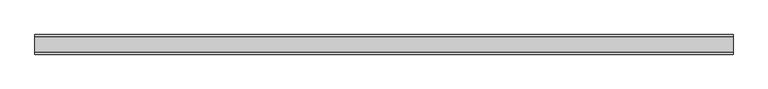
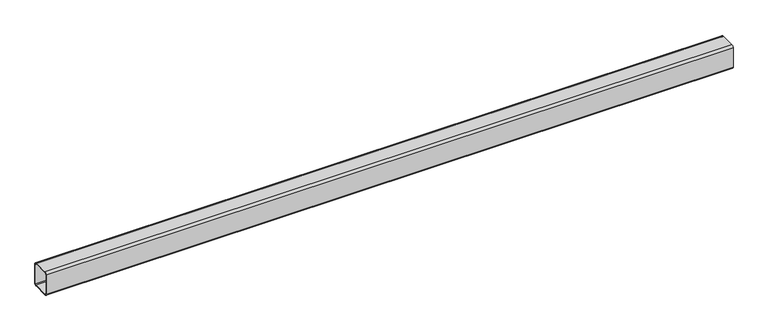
"""IFC4 building model written with IfcOpenShell, lengths in millimetres: beam geometry, Труба прямоугольного сечения (ТУ 67-2287-80) Балки : труба200x160x8."""

from ifc_helpers import new_model, si_unit, point, frame, frame_2d, origin, place, context, project, spatial, polyline, circle_curve, trimmed, segment, composite_curve, outline, extrude, source, transform, mapped, element, save


def beam_cc71b6d1(model_context):
    return source(origin(), model_context, "Body", "SweptSolid", [
        extrude(outline(composite_curve([segment(polyline([(-64.0, 100.0), (64.0, 100.0)]), True, "CONTINUOUS"), segment(trimmed(circle_curve(frame_2d((64.0, 84.0)), 16.0), [point((64.0, 100.0))], [point((80.0, 84.0))], False, "CARTESIAN"), True, "CONTINUOUS"), segment(polyline([(80.0, 84.0), (80.0, -84.0)]), True, "CONTINUOUS"), segment(trimmed(circle_curve(frame_2d((64.0, -84.0)), 16.0), [point((80.0, -84.0))], [point((64.0, -100.0))], False, "CARTESIAN"), True, "CONTINUOUS"), segment(polyline([(64.0, -100.0), (-64.0, -100.0)]), True, "CONTINUOUS"), segment(trimmed(circle_curve(frame_2d((-64.0, -84.0)), 16.0), [point((-64.0, -100.0))], [point((-80.0, -84.0))], False, "CARTESIAN"), True, "CONTINUOUS"), segment(polyline([(-80.0, -84.0), (-80.0, 84.0)]), True, "CONTINUOUS"), segment(trimmed(circle_curve(frame_2d((-64.0, 84.0)), 16.0), [point((-80.0, 84.0))], [point((-64.0, 100.0))], False, "CARTESIAN"), True, "CONTINUOUS")], self_intersect=False), holes=[composite_curve([segment(trimmed(circle_curve(frame_2d((-64.0, 84.0)), 8.0), [point((-64.0, 92.0))], [point((-72.0, 84.0))], True, "CARTESIAN"), True, "CONTINUOUS"), segment(polyline([(-72.0, 84.0), (-72.0, -84.0)]), True, "CONTINUOUS"), segment(trimmed(circle_curve(frame_2d((-64.0, -84.0)), 8.0), [point((-72.0, -84.0))], [point((-64.0, -92.0))], True, "CARTESIAN"), True, "CONTINUOUS"), segment(polyline([(-64.0, -92.0), (64.0, -92.0)]), True, "CONTINUOUS"), segment(trimmed(circle_curve(frame_2d((64.0, -84.0)), 8.0), [point((64.0, -92.0))], [point((72.0, -84.0))], True, "CARTESIAN"), True, "CONTINUOUS"), segment(polyline([(72.0, -84.0), (72.0, 84.0)]), True, "CONTINUOUS"), segment(trimmed(circle_curve(frame_2d((64.0, 84.0)), 8.0), [point((72.0, 84.0))], [point((64.0, 92.0))], True, "CARTESIAN"), True, "CONTINUOUS"), segment(polyline([(64.0, 92.0), (-64.0, 92.0)]), True, "CONTINUOUS")], self_intersect=False)]), frame((-2799.5, 0.0, 0.0), z_axis=(1.0, 0.0, 0.0), x_axis=(0.0, 1.0, 0.0)), (0.0, 0.0, 1.0), 5679.0),
    ])


if __name__ == "__main__":
    model = new_model("IFC4")
    model_context = context("Model", 3, world=origin())
    ifc_project = project(units=[si_unit("LENGTHUNIT", "METRE", prefix="MILLI")], contexts=[model_context])
    site = spatial("IfcSite", under=ifc_project)
    building = spatial("IfcBuilding", under=site)
    placement = place(None, origin())
    beam_shape = beam_cc71b6d1(model_context)
    element("IfcBeam", 1, ObjectType="Труба прямоугольного сечения (ТУ 67-2287-80) Балки : труба200x160x8", at=placement, inside=building, context=model_context, shape_type="MappedRepresentation", body=[
        mapped(beam_shape, transform((0.0, 0.0, 0.0), x_axis=(1.0, 0.0, 0.0), y_axis=(0.0, 1.0, 0.0), z_axis=(0.0, 0.0, 1.0))),
    ])
    save(model, "model.ifc")
